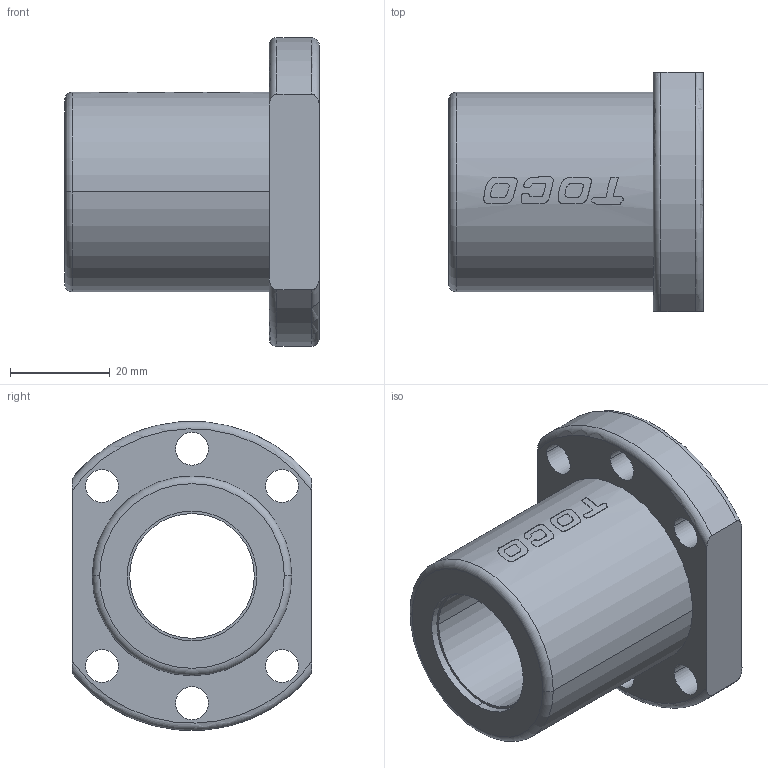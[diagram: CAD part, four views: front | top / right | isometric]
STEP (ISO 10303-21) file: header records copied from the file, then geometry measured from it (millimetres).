
FILE_DESCRIPTION (( 'STEP AP214' ), '1' );
FILE_NAME ('7.3106 STNUR2505T4D.STEP', '2026-03-02T13:47:39', ( '' ), ( '' ), 'SwSTEP 2.0', 'SolidWorks 2025', '' );
FILE_SCHEMA (( 'AUTOMOTIVE_DESIGN' ));
Length unit declared in the file: millimetre
Products named in the file (1): 7.3106 STNUR2505T4D
Bounding box: 51 x 48 x 61.88 mm (x, y, z)
Volume: 50257.6 mm3; surface area: 17548.3 mm2
Topology: 2 solids, 2 shells, 90 faces, 226 edges, 150 vertices
Faces by surface type: cylinder 34, bspline 26, plane 24, torus 6
Entity records: 11119 total; most frequent: CARTESIAN_POINT 9028, ORIENTED_EDGE 452, DIRECTION 355, EDGE_CURVE 226, VERTEX_POINT 150, AXIS2_PLACEMENT_3D 125, EDGE_LOOP 116, LINE 105
